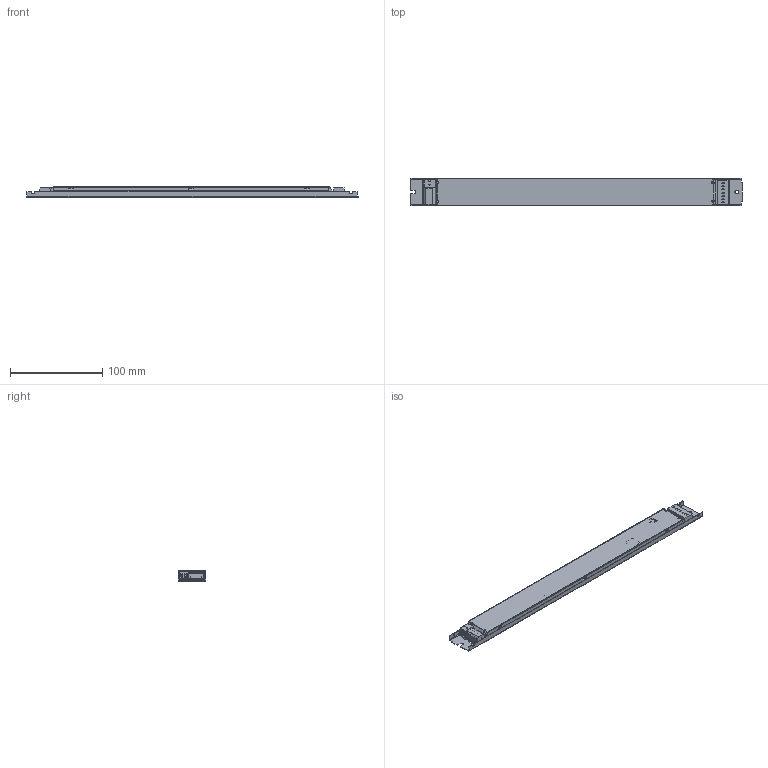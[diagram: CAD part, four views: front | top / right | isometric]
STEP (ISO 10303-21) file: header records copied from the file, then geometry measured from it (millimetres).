
FILE_DESCRIPTION(('Creo Elements/Direct Modeling STEP Export'),'2;1');
FILE_NAME('M105.stp','2025-03-20T 9:28:31',(''),(''),'Creo Elements/Direct Modeling STEP processor for AP214 (Solid Model)','Creo Elements/Direct Modeling 20.7 06-Apr-2024 (C) Parametric Technology GmbH','');
FILE_SCHEMA(('AUTOMOTIVE_DESIGN { 1 0 10303 214 1 1 1 1 }'));
Length unit declared in the file: millimetre
Products named in the file (22): PRT0001_1_1_31_17.PRT; PRT0001_1_1_31_2.PRT; PRT0001_1_1_31_3.PRT; PRT0001_1_1_31_4.PRT; PRT0001_1_1_31_5.PRT; PRT0001_1_1_31_6.PRT; PRT0001_1_1_31_7.PRT; PRT0001_1_1_31_8.PRT; PRT0001_1_1_31_9.PRT; PRT0001_1_1_31_10.PRT; PRT0001_1_1_31_11.PRT; PRT0001_1_1_31_12.PRT; PRT0001_1_1_31_13.PRT; PRT0001_1_1_31_14.PRT; PRT0001_1_1_31_15.PRT; PRT0001_1_1_31_16.PRT; PCB; M64_5_30001_1_2.PRT; casing top; casing bottom; M105
Assembly tree (21 placements, depth 3):
  M105
    casing bottom
    casing top
    PCB
      M64_5_30001_1_2.PRT
      PCB
      PRT0001_1_1_31_16.PRT
      PRT0001_1_1_31_15.PRT
      PRT0001_1_1_31_14.PRT
      PRT0001_1_1_31_13.PRT
      PRT0001_1_1_31_12.PRT
      PRT0001_1_1_31_11.PRT
      PRT0001_1_1_31_10.PRT
      PRT0001_1_1_31_9.PRT
      PRT0001_1_1_31_8.PRT
      PRT0001_1_1_31_7.PRT
      PRT0001_1_1_31_6.PRT
      PRT0001_1_1_31_5.PRT
      PRT0001_1_1_31_4.PRT
      PRT0001_1_1_31_3.PRT
      PRT0001_1_1_31_2.PRT
      PRT0001_1_1_31_17.PRT
Bounding box: 360 x 30 x 11 mm (x, y, z)
Volume: 41894.2 mm3; surface area: 86822.8 mm2
Topology: 20 solids, 20 shells, 1872 faces, 5191 edges, 3314 vertices
Faces by surface type: plane 1111, cylinder 420, bspline 224, torus 97, sphere 16, cone 4
Entity records: 75590 total; most frequent: CARTESIAN_POINT 30204, ORIENTED_EDGE 10350, DIRECTION 7884, EDGE_CURVE 5175, VERTEX_POINT 3314, VECTOR 3288, LINE 3288, AXIS2_PLACEMENT_3D 2298
